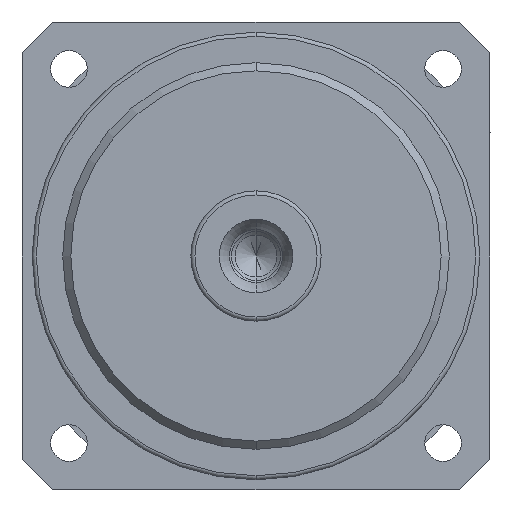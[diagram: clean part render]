
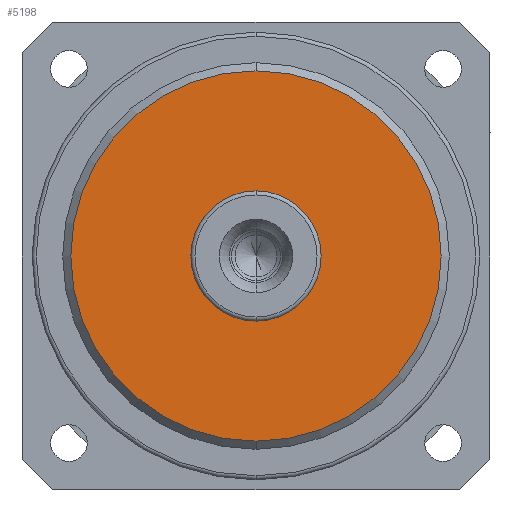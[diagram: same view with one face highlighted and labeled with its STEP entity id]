
A CAD part, left-side view. The second image highlights one B-rep face of the part: STEP entity #5198.
In plain terms, the highlighted planar face has unit normal (-1, 0, 0) as drawn and (0, 0, -1) by its records, which use the part's own axes.
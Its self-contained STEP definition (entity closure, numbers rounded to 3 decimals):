
#4001=CARTESIAN_POINT('',(0.,0.,-14.));
#4002=DIRECTION('',(0.,0.,1.));
#4003=DIRECTION('',(0.,-1.,0.));
#4004=AXIS2_PLACEMENT_3D('',#4001,#4002,#4003);
#4006=CARTESIAN_POINT('',(0.,0.,-14.));
#4007=DIRECTION('',(0.,0.,-1.));
#4008=DIRECTION('',(0.,-1.,0.));
#4009=AXIS2_PLACEMENT_3D('',#4006,#4007,#4008);
#4019=CARTESIAN_POINT('',(0.,0.,-14.));
#4020=DIRECTION('',(0.,0.,-1.));
#4021=DIRECTION('',(0.,-1.,0.));
#4022=AXIS2_PLACEMENT_3D('',#4019,#4020,#4021);
#4024=CARTESIAN_POINT('',(0.,0.,-14.));
#4025=DIRECTION('',(0.,0.,1.));
#4026=DIRECTION('',(0.,-1.,0.));
#4027=AXIS2_PLACEMENT_3D('',#4024,#4025,#4026);
#4156=CARTESIAN_POINT('',(0.,-45.5,-14.));
#4158=VERTEX_POINT('',#4156);
#4159=CARTESIAN_POINT('',(0.,-16.,-14.));
#4161=VERTEX_POINT('',#4159);
#4170=CARTESIAN_POINT('',(0.,45.5,-14.));
#4172=VERTEX_POINT('',#4170);
#4173=CARTESIAN_POINT('',(0.,16.,-14.));
#4175=VERTEX_POINT('',#4173);
#5183=CARTESIAN_POINT('',(0.,0.,-14.));
#5184=DIRECTION('',(0.,0.,1.));
#5185=DIRECTION('',(0.,1.,0.));
#5186=AXIS2_PLACEMENT_3D('',#5183,#5184,#5185);
#5187=PLANE('',#5186);
#5188=ORIENTED_EDGE('',*,*,#5178,.T.);
#5189=ORIENTED_EDGE('',*,*,#5162,.F.);
#5190=EDGE_LOOP('',(#5188,#5189));
#5191=FACE_OUTER_BOUND('',#5190,.F.);
#5193=ORIENTED_EDGE('',*,*,#5192,.T.);
#5195=ORIENTED_EDGE('',*,*,#5194,.F.);
#5196=EDGE_LOOP('',(#5193,#5195));
#5197=FACE_BOUND('',#5196,.F.);
#5198=ADVANCED_FACE('',(#5191,#5197),#5187,.F.);
#4005=CIRCLE('',#4004,45.5);
#4010=CIRCLE('',#4009,45.5);
#4023=CIRCLE('',#4022,16.);
#4028=CIRCLE('',#4027,16.);
#5162=EDGE_CURVE('',#4158,#4172,#4010,.T.);
#5178=EDGE_CURVE('',#4158,#4172,#4005,.T.);
#5192=EDGE_CURVE('',#4161,#4175,#4023,.T.);
#5194=EDGE_CURVE('',#4161,#4175,#4028,.T.);
